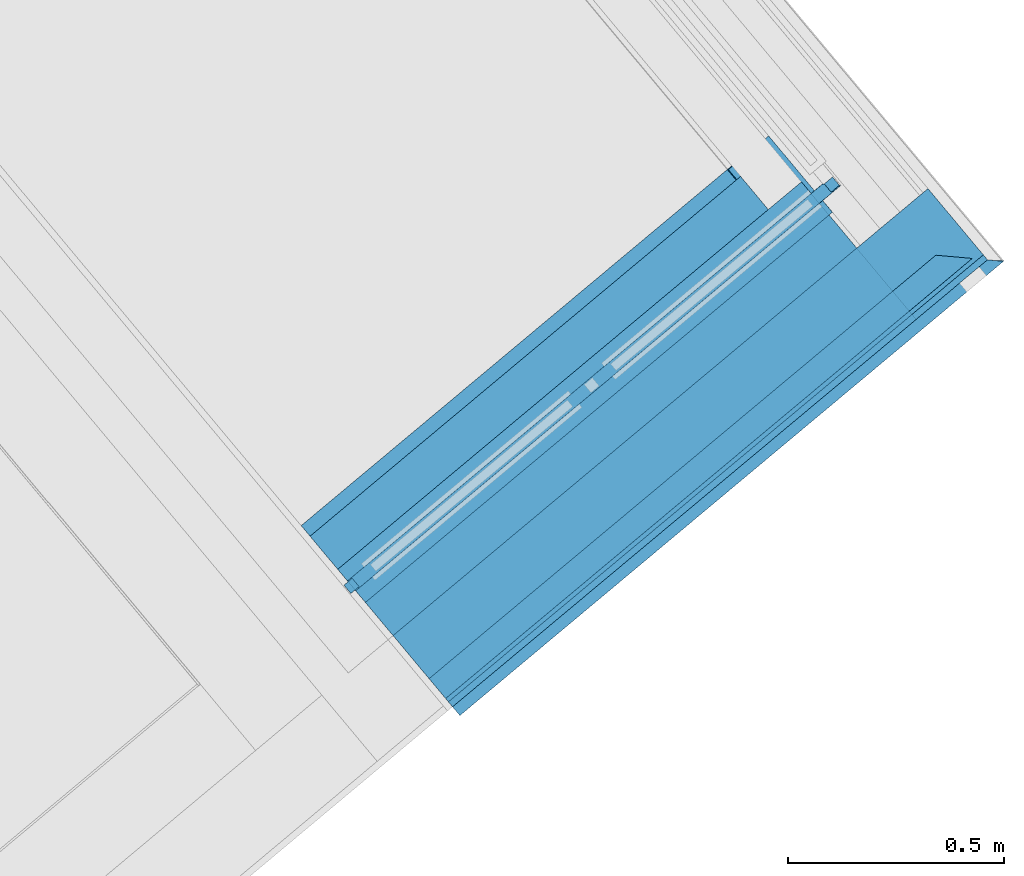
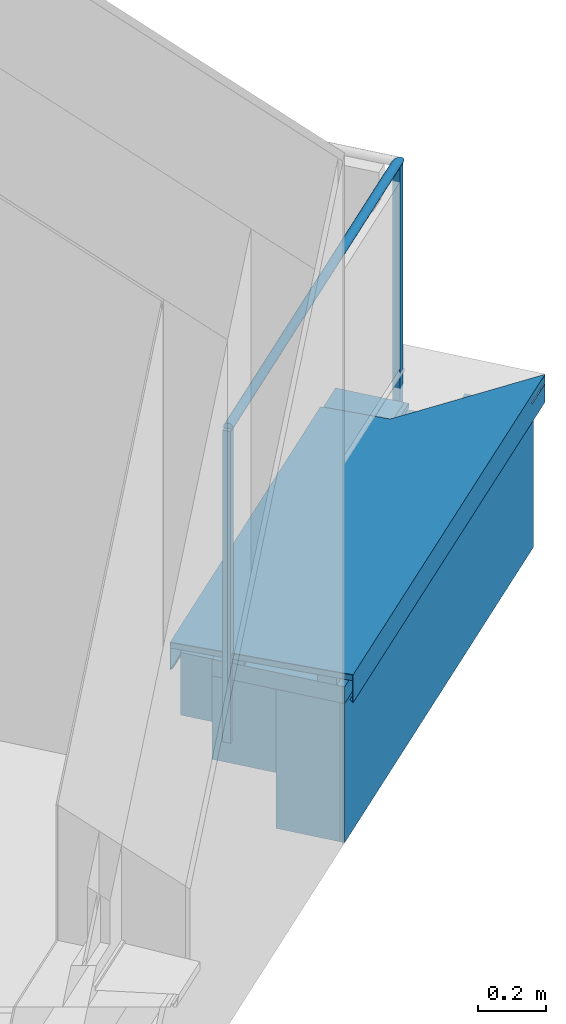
# One storey, part 28 of 50: 12 building element parts, 2 elements without a shape of their own.
"""IFC4 building model written with IfcOpenShell, lengths in metres."""

from ifc_helpers import new_model, entity, si_unit, converted_unit, derived_unit, direction, frame, origin_with_axes, place, context, subcontext, project, spatial, polygons, material, type_object, element, aggregate, save


model = new_model("IFC4")

# Units and contexts
model_context = context("Model", 3, precision=1e-05, world=origin_with_axes(), true_north=direction((0.0, 1.0)))
body_context = subcontext(model_context, "Body", "Model", "MODEL_VIEW")
ifc_project = project(units=[si_unit("LENGTHUNIT", "METRE"), si_unit("AREAUNIT", "SQUARE_METRE"), si_unit("VOLUMEUNIT", "CUBIC_METRE"), converted_unit("PLANEANGLEUNIT", "DEGREE", entity("IfcPlaneAngleMeasure", 0.0174532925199), si_unit("PLANEANGLEUNIT", "RADIAN"), dimensions=[0, 0, 0, 0, 0, 0, 0]), converted_unit("TIMEUNIT", "Year", entity("IfcTimeMeasure", 31556926.0), si_unit("TIMEUNIT", "SECOND"), dimensions=[0, 0, 1, 0, 0, 0, 0]), si_unit("MASSUNIT", "GRAM", prefix="KILO"), si_unit("THERMODYNAMICTEMPERATUREUNIT", "DEGREE_CELSIUS"), si_unit("LUMINOUSINTENSITYUNIT", "LUMEN"), si_unit("ENERGYUNIT", "JOULE", prefix="MEGA"), derived_unit("THERMALCONDUCTANCEUNIT", [(si_unit("POWERUNIT", "WATT"), 1), (si_unit("LENGTHUNIT", "METRE"), -1), (si_unit("THERMODYNAMICTEMPERATUREUNIT", "KELVIN"), -1)]), derived_unit("SPECIFICHEATCAPACITYUNIT", [(si_unit("ENERGYUNIT", "JOULE"), 1), (si_unit("MASSUNIT", "GRAM", prefix="KILO"), -1), (si_unit("THERMODYNAMICTEMPERATUREUNIT", "KELVIN"), -1)]), derived_unit("MASSDENSITYUNIT", [(si_unit("MASSUNIT", "GRAM", prefix="KILO"), 1), (si_unit("VOLUMEUNIT", "CUBIC_METRE"), -1)])], contexts=[model_context])

# Site, building, storey
site_placement = place(None, frame((-0.00153261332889, -0.00661245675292, 0.0), z_axis=(0.0, 0.0, 1.0), x_axis=(1.0, 0.0, 0.0)))
site = spatial("IfcSite", under=ifc_project, at=site_placement, Name="Site", CompositionType="ELEMENT")
building_placement = place(site_placement, origin_with_axes())
building = spatial("IfcBuilding", under=site, at=building_placement, Name="Building", CompositionType="ELEMENT")
storey_placement = place(building_placement, frame((0.0, 0.0, 2.74), z_axis=(0.0, 0.0, 1.0), x_axis=(1.0, 0.0, 0.0)))
storey = spatial("IfcBuildingStorey", under=building, at=storey_placement, Name="OG1", CompositionType="ELEMENT", Elevation=2.74)

# Wall, building element parts
wall_type = type_object("IfcWallType", Name="Balkon Dämmung runter 574 x 610", PredefinedType="NOTDEFINED")
wall_placement = place(storey_placement, frame((14.3343917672, 21.3414540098, -0.2), z_axis=(0.0, 0.0, 1.0), x_axis=(-0.76736545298, -0.64120999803, 0.0)))
wall = element("IfcWall", 1, at=wall_placement, inside=storey, type_object=wall_type, Name="Wand-004", PredefinedType="NOTDEFINED")
ifc_material_1 = material(Name="Zementputz")
building_element_part_1_placement = place(wall_placement, origin_with_axes())
building_element_part_1 = element("IfcBuildingElementPart", 2, at=building_element_part_1_placement, material=ifc_material_1, Name="Zementputz", PredefinedType="NOTDEFINED", context=body_context, shape_type="Tessellation", body=[
    polygons([(-0.21499890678, 0.214999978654, 0.0), (-0.21499890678, 0.214999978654, 0.500000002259), (1.40011965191, 0.214999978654, 0.500000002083), (1.40011965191, 0.214999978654, 0.0), (-0.214998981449, 0.19999996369, 0.0), (-0.214998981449, 0.19999996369, 0.500000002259), (1.40011965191, 0.19999996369, 0.499999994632), (1.40011965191, 0.19999996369, 0.0)], [[[1, 2, 3, 4]], [[2, 1, 5, 6]], [[2, 6, 7, 3]], [[4, 3, 7, 8]], [[5, 1, 4, 8]], [[6, 5, 8, 7]]], closed=True),
])
ifc_material_2 = material(Name="Vollholz")
building_element_part_2_placement = place(wall_placement, origin_with_axes())
building_element_part_2 = element("IfcBuildingElementPart", 3, at=building_element_part_2_placement, material=ifc_material_2, Name="Vollholz", PredefinedType="NOTDEFINED", context=body_context, shape_type="Tessellation", body=[
    polygons([(-0.130124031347, 0.189996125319, 0.584015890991), (-0.189983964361, 0.189984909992, 0.586106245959), (1.40011965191, 0.189984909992, 0.586106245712), (1.40011965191, 0.190124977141, 0.560000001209), (-0.130124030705, 0.190124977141, 0.560000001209), (-0.130124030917, 0.19008233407, 0.567947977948), (-0.130124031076, 0.190050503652, 0.573880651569), (-0.130124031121, 0.190041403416, 0.575576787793), (-0.130124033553, 0.190039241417, 0.575979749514), (-0.070141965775, 0.190039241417, 0.575979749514), (-0.0100531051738, 0.190039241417, 0.575979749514), (-0.0100317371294, 0.190018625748, 0.579822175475), (-0.0701419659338, 0.190007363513, 0.581921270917), (-0.130124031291, 0.190007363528, 0.581921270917), (-0.130124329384, 0.130124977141, 0.584015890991), (1.40011965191, 0.130124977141, 0.584015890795), (1.40011965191, 0.130124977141, 0.560000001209), (-0.130124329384, 0.130124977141, 0.560000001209), (-0.130124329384, 0.130124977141, 0.567947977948), (-0.130124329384, 0.130124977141, 0.573880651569), (-0.130124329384, 0.130124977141, 0.575576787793), (-0.130124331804, 0.130124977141, 0.575979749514), (-0.0701422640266, 0.130124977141, 0.575979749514), (-0.0100534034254, 0.130124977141, 0.575979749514), (-0.0100320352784, 0.130124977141, 0.579822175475), (-0.0701422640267, 0.130124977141, 0.581921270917), (-0.130124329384, 0.130124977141, 0.581921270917)], [[[1, 2, 3, 4, 5, 6, 7, 8, 9, 10, 11, 12, 13, 14]], [[15, 2, 1]], [[2, 15, 16, 3]], [[3, 16, 17, 4]], [[17, 18, 5, 4]], [[5, 18, 19, 6]], [[7, 6, 19, 20]], [[21, 8, 7, 20]], [[22, 9, 8, 21]], [[10, 9, 22, 23]], [[10, 23, 24, 11]], [[11, 24, 25, 12]], [[12, 25, 26, 13]], [[14, 13, 26, 27]], [[15, 1, 14, 27]], [[18, 17, 16, 15, 27, 26, 25, 24, 23, 22, 21, 20, 19]]], closed=True),
])
ifc_material_3 = material(Name="EPS 1")
building_element_part_3_placement = place(wall_placement, origin_with_axes())
building_element_part_3 = element("IfcBuildingElementPart", 4, at=building_element_part_3_placement, material=ifc_material_3, Name="EPS 1", PredefinedType="NOTDEFINED", context=body_context, shape_type="Tessellation", body=[
    polygons([(-0.214998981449, 0.19999996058, 0.0), (-0.214998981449, 0.19999996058, 0.500000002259), (1.40011965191, 0.19999996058, 0.499999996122), (1.40011965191, 0.19999996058, 0.0), (-0.214999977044, 2.90217450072e-09, 0.0), (-0.214999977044, 2.73518807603e-09, 0.200000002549), (-0.214999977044, 2.90217627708e-09, 0.500000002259), (1.40011965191, 2.90217450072e-09, 0.500000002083), (1.40011965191, 2.90217450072e-09, 0.0), (1.40011965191, 2.73518807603e-09, 0.200000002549)], [[[1, 2, 3, 4]], [[2, 1, 5, 6, 7]], [[2, 7, 8, 3]], [[9, 4, 3, 8, 10]], [[5, 1, 4, 9]], [[6, 5, 9, 10]], [[7, 6, 10, 8]]], closed=True),
])
ifc_material_4 = material(Name="Brettschichtholz")
building_element_part_4_placement = place(wall_placement, origin_with_axes())
building_element_part_4 = element("IfcBuildingElementPart", 5, at=building_element_part_4_placement, material=ifc_material_4, Name="Brettschichtholz", PredefinedType="NOTDEFINED", context=body_context, shape_type="Tessellation", body=[
    polygons([(1.40011965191, 0.214999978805, 0.500000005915), (1.40011965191, 0.214999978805, 0.560000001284), (1.40011965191, 0.190124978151, 0.560000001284), (1.40011965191, 0.130124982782, 0.560000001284), (1.40011965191, -0.100000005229, 0.560000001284), (1.40011965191, -0.160000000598, 0.560000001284), (1.40011965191, -0.200000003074, 0.560000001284), (1.40011965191, -0.199999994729, 0.500000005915), (1.07020205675e-06, 0.214999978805, 0.500000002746), (1.07020207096e-06, 0.214999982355, 0.506731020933), (1.07020207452e-06, 0.214999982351, 0.509050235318), (1.07020203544e-06, 0.214999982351, 0.509099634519), (1.07020207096e-06, 0.214999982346, 0.51136132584), (1.07020206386e-06, 0.214999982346, 0.511410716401), (1.07020207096e-06, 0.21499998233, 0.519224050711), (1.0702020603e-06, 0.21499998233, 0.519273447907), (1.07020207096e-06, 0.214999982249, 0.560000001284), (9.46374964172e-07, 0.190124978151, 0.560000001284), (6.47696584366e-07, 0.130124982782, 0.560000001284), (-4.97859470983e-07, -0.100000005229, 0.560000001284), (-7.96537847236e-07, -0.160000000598, 0.560000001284), (-9.95656794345e-07, -0.200000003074, 0.560000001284), (-9.95656751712e-07, -0.199999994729, 0.500000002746), (-9.95656773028e-07, -0.19999999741, 0.519273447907), (-9.95656765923e-07, -0.199999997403, 0.519224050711), (-9.95656765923e-07, -0.199999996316, 0.511410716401), (-9.95656758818e-07, -0.199999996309, 0.51136132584), (-9.95656787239e-07, -0.199999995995, 0.509099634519), (-9.95656758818e-07, -0.199999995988, 0.509050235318), (-9.95656758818e-07, -0.199999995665, 0.506731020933)], [[[1, 2, 3, 4, 5, 6, 7, 8]], [[2, 1, 9, 10, 11, 12, 13, 14, 15, 16, 17]], [[3, 2, 17, 18]], [[4, 3, 18, 19]], [[5, 4, 19, 20]], [[6, 5, 20, 21]], [[7, 6, 21, 22]], [[23, 8, 7, 22, 24, 25, 26, 27, 28, 29, 30]], [[1, 8, 23, 9]], [[9, 23, 30, 10]], [[11, 10, 30, 29]], [[12, 11, 29, 28]], [[13, 12, 28, 27]], [[14, 13, 27, 26]], [[15, 14, 26, 25]], [[25, 24, 16, 15]], [[21, 20, 19, 18, 17, 16, 24, 22]]], closed=True),
])
ifc_material_5 = material(Name="Stahlbeton")
building_element_part_5_placement = place(wall_placement, origin_with_axes())
building_element_part_5 = element("IfcBuildingElementPart", 6, at=building_element_part_5_placement, material=ifc_material_5, Name="Stahlbeton", PredefinedType="NOTDEFINED", context=body_context, shape_type="Tessellation", body=[
    polygons([(-1.05296038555e-09, 2.73518452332e-09, 0.498915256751), (-1.05295683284e-09, 2.73518452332e-09, 0.500000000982), (1.40011965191, 2.73518807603e-09, 0.499999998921), (1.40011965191, 2.73518807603e-09, 0.200000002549), (-1.05296038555e-09, 2.73518452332e-09, 0.2), (-1.05296038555e-09, 2.73518452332e-09, 0.334999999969), (-1.05296038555e-09, 2.73518452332e-09, 0.488695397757), (-1.05296038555e-09, 2.73518452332e-09, 0.491006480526), (-1.05296038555e-09, 2.73518452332e-09, 0.496604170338), (-1.05296038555e-09, 2.73518452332e-09, 0.498822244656), (-9.96647639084e-07, -0.199999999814, 0.500000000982), (-9.96647639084e-07, -0.199999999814, 0.498915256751), (1.40011965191, -0.199999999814, 0.500000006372), (1.40011965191, -0.199999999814, 0.334999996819), (1.40011965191, -0.199999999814, 0.200000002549), (-9.96647639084e-07, -0.199999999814, 0.2), (-9.96647639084e-07, -0.199999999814, 0.334999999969), (-9.96647639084e-07, -0.199999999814, 0.488695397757), (-9.96647639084e-07, -0.199999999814, 0.491006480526), (-9.96647639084e-07, -0.199999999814, 0.496604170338), (-9.96647639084e-07, -0.199999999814, 0.498822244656)], [[[1, 2, 3, 4, 5, 6, 7, 8, 9, 10]], [[11, 2, 1, 12]], [[2, 11, 13, 3]], [[4, 3, 13, 14, 15]], [[16, 5, 4, 15]], [[17, 6, 5, 16]], [[18, 7, 6, 17]], [[19, 8, 7, 18]], [[20, 9, 8, 19]], [[21, 10, 9, 20]], [[12, 1, 10, 21]], [[11, 12, 21, 20, 19, 18, 17, 14, 13]], [[17, 16, 15, 14]]], closed=True),
])
building_element_part_6_placement = place(wall_placement, origin_with_axes())
building_element_part_6 = element("IfcBuildingElementPart", 7, at=building_element_part_6_placement, material=ifc_material_2, Name="Vollholz", PredefinedType="NOTDEFINED", context=body_context, shape_type="Tessellation", body=[
    polygons([(-0.0100567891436, -0.1, 0.575576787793), (-0.0100545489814, -0.1, 0.575979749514), (1.40011965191, -0.1, 0.575979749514), (1.40011965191, -0.1, 0.560000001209), (-0.0101434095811, -0.1, 0.560000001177), (-0.0100992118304, -0.1, 0.567947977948), (-0.0100662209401, -0.1, 0.573880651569), (-0.010056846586, -0.11153931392, 0.575576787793), (-0.0100665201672, -0.160110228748, 0.573880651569), (1.40011965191, -0.160110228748, 0.573880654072), (1.40011965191, -0.16, 0.560000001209), (-0.0101437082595, -0.16, 0.560000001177), (-0.010099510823, -0.160063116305, 0.567947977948)], [[[1, 2, 3, 4, 5, 6, 7]], [[8, 2, 1]], [[2, 8, 9, 10, 3]], [[10, 11, 4, 3]], [[12, 5, 4, 11]], [[13, 6, 5, 12]], [[9, 7, 6, 13]], [[8, 1, 7, 9]], [[9, 13, 12, 11, 10]]], closed=True),
])
building_element_part_7_placement = place(wall_placement, origin_with_axes())
building_element_part_7 = element("IfcBuildingElementPart", 8, at=building_element_part_7_placement, material=ifc_material_3, Name="EPS 1", PredefinedType="NOTDEFINED", context=body_context, shape_type="Tessellation", body=[
    polygons([(0.0999985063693, -0.300000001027, 0.498915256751), (0.0999985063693, -0.300000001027, 0.499999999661), (0.0999990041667, -0.199999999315, 0.499999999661), (0.0999990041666, -0.199999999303, 0.498915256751), (1.40011965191, -0.3, 0.335), (1.40011965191, -0.3, 0.560000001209), (0.0999985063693, -0.300000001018, 0.560000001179), (0.0999985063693, -0.300000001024, 0.519273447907), (0.0999985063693, -0.300000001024, 0.519224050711), (0.0999985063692, -0.300000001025, 0.511410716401), (0.0999985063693, -0.300000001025, 0.51136132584), (0.0999985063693, -0.300000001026, 0.509099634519), (0.0999985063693, -0.300000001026, 0.509050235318), (0.0999985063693, -0.300000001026, 0.506731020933), (0.0999985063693, -0.300000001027, 0.498822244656), (0.0999985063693, -0.300000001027, 0.496604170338), (0.0999985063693, -0.300000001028, 0.491006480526), (0.0999985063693, -0.300000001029, 0.488695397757), (0.0999985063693, -0.3, 0.335), (0.0999990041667, -0.199999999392, 0.506731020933), (1.40011965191, -0.2, 0.560000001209), (1.40011965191, -0.199999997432, 0.335), (0.0999990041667, -0.199999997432, 0.335), (0.0999990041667, -0.199999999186, 0.488695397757), (0.0999990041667, -0.199999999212, 0.491006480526), (0.0999990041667, -0.199999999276, 0.496604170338), (0.0999990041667, -0.199999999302, 0.498822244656), (0.0999990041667, -0.199999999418, 0.509050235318), (0.0999990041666, -0.199999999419, 0.509099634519), (0.0999990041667, -0.199999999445, 0.51136132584), (0.0999990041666, -0.199999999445, 0.511410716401), (0.0999990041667, -0.199999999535, 0.519224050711), (0.0999990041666, -0.199999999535, 0.519273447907), (0.0999990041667, -0.2, 0.560000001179)], [[[1, 2, 3, 4]], [[5, 6, 7, 8, 9, 10, 11, 12, 13, 14, 2, 1, 15, 16, 17, 18, 19]], [[2, 14, 20, 3]], [[21, 22, 23, 24, 25, 26, 27, 4, 3, 20, 28, 29, 30, 31, 32, 33, 34]], [[15, 1, 4, 27]], [[5, 22, 21, 6]], [[6, 21, 34, 7]], [[34, 33, 8, 7]], [[33, 32, 9, 8]], [[32, 31, 10, 9]], [[31, 30, 11, 10]], [[30, 29, 12, 11]], [[29, 28, 13, 12]], [[14, 13, 28, 20]], [[16, 15, 27, 26]], [[17, 16, 26, 25]], [[18, 17, 25, 24]], [[19, 18, 24, 23]], [[22, 5, 19, 23]]], closed=True),
])
ifc_material_6 = material(Name="Holzwerkstoff")
building_element_part_8_placement = place(wall_placement, origin_with_axes())
building_element_part_8 = element("IfcBuildingElementPart", 9, at=building_element_part_8_placement, material=ifc_material_6, Name="Holzwerkstoff", PredefinedType="NOTDEFINED", context=body_context, shape_type="Tessellation", body=[
    polygons([(1.40011965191, -0.329999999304, 0.567947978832), (1.40011965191, -0.330698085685, 0.587937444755), (0.111969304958, -0.330698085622, 0.587937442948), (0.111905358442, -0.330634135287, 0.586106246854), (0.111832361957, -0.330561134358, 0.584015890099), (0.111759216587, -0.330487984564, 0.581921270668), (0.111685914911, -0.330414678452, 0.579822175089), (0.111551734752, -0.330280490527, 0.575979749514), (0.11153766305, -0.33026641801, 0.575576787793), (-0.0100579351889, -0.33026641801, 0.575576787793), (-0.0100673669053, -0.330207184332, 0.573880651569), (-0.0101003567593, -0.329999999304, 0.567947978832), (1.40011965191, 0.130124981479, 0.584015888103), (1.40011965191, 0.189984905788, 0.586106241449), (1.40011965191, 0.239999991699, 0.587852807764), (1.40011965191, 0.239276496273, 0.608570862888), (1.40011965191, -0.160110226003, 0.573880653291), (1.40011965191, -0.0999999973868, 0.575979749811), (-0.239275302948, 0.239276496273, 0.608570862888), (0.112246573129, -0.11222723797, 0.5958462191), (0.111972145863, 0.239997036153, 0.587937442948), (0.11196919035, 0.239999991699, 0.587852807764), (0.11190795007, 0.189985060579, 0.586106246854), (0.111834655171, 0.130124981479, 0.584015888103), (0.111761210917, 0.0701429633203, 0.581921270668), (0.111687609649, 0.0100327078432, 0.579822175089), (0.111552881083, -0.100000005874, 0.575979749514), (0.111538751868, -0.111539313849, 0.575576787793), (-0.0100568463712, -0.111539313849, 0.575576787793), (-0.0100665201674, -0.160110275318, 0.573880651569), (0.112248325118, 0.239720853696, 0.5958462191)], [[[1, 2, 3, 4, 5, 6, 7, 8, 9, 10, 11, 12]], [[13, 14, 15, 16, 2, 1, 17, 18]], [[2, 16, 19, 20, 3]], [[4, 3, 21, 22, 23]], [[5, 4, 23, 24]], [[6, 5, 24, 25]], [[26, 7, 6, 25]], [[27, 8, 7, 26]], [[27, 28, 9, 8]], [[9, 28, 29, 10]], [[11, 10, 29, 30]], [[30, 12, 11]], [[17, 1, 12, 30]], [[14, 13, 24, 23]], [[15, 14, 23, 22]], [[16, 15, 22, 21, 31, 19]], [[18, 17, 30, 29, 28, 27]], [[13, 18, 27, 26, 25, 24]], [[31, 20, 19]], [[3, 20, 31, 21]]], closed=True),
])
ifc_material_7 = material(Name="Stahl")
building_element_part_9_placement = place(wall_placement, origin_with_axes())
building_element_part_9 = element("IfcBuildingElementPart", 10, at=building_element_part_9_placement, material=ifc_material_7, Name="Stahl", PredefinedType="NOTDEFINED", context=body_context, shape_type="Tessellation", body=[
    polygons([(0.113599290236, -0.330698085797, 0.497561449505), (0.113599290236, -0.330698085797, 0.498822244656), (0.113599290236, -0.330698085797, 0.498915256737), (0.113599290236, -0.330698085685, 0.499999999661), (0.113599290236, -0.330698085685, 0.506731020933), (0.113599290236, -0.330698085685, 0.509050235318), (0.113599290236, -0.330698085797, 0.509099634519), (0.113599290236, -0.330698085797, 0.51136132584), (0.113599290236, -0.330698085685, 0.511410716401), (0.113599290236, -0.330698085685, 0.519224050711), (0.113599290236, -0.330698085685, 0.519273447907), (0.113599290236, -0.330698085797, 0.559999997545), (0.113599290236, -0.330698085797, 0.567947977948), (0.113599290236, -0.330698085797, 0.573880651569), (0.113599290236, -0.330698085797, 0.575576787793), (0.113599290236, -0.330698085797, 0.575979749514), (0.113599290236, -0.330698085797, 0.57982217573), (0.113599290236, -0.330698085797, 0.581921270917), (0.113599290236, -0.330698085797, 0.584015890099), (0.113599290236, -0.330698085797, 0.586106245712), (0.113599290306, -0.330698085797, 0.587937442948), (1.40011965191, -0.330698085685, 0.587937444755), (1.40011965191, -0.330698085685, 0.491006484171), (0.0999983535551, -0.330698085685, 0.491006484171), (0.0999983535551, -0.330698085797, 0.496604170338), (0.112642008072, -0.330698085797, 0.496604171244), (0.113599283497, -0.332051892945, 0.497561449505), (0.113599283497, -0.332051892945, 0.498822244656), (0.113599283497, -0.332051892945, 0.498915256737), (0.113599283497, -0.332051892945, 0.499999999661), (0.113599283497, -0.332051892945, 0.506731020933), (0.113599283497, -0.332051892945, 0.509050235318), (0.113599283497, -0.332051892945, 0.509099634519), (0.113599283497, -0.332051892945, 0.51136132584), (0.113599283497, -0.33205189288, 0.511410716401), (0.113599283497, -0.33205189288, 0.519224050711), (0.113599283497, -0.33205189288, 0.519273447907), (0.113599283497, -0.332051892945, 0.559999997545), (0.113599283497, -0.332051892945, 0.567947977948), (0.113599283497, -0.332051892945, 0.573880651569), (0.113599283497, -0.332051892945, 0.575576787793), (0.113599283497, -0.332051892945, 0.575979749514), (0.113599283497, -0.332051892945, 0.57982217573), (0.113599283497, -0.332051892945, 0.581921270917), (0.113599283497, -0.332051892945, 0.584015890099), (0.113599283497, -0.332051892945, 0.586106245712), (0.113599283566, -0.332051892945, 0.587937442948), (1.40011965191, 0.239276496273, 0.608570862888), (0.113600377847, -0.112227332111, 0.595846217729), (0.113600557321, -0.0761598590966, 0.597151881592), (-0.20170738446, 0.239276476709, 0.608570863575), (1.40011965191, -0.332051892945, 0.489652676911), (1.40011965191, -0.331094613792, 0.488695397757), (1.40011965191, -0.321878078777, 0.497911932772), (1.40011965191, -0.32288233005, 0.498822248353), (1.40011965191, 0.240152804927, 0.608602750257), (1.40011965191, 0.240146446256, 0.51136132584), (1.40011965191, 0.232283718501, 0.519224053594), (1.40011965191, 0.231373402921, 0.518219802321), (1.40011965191, 0.240542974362, 0.509050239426), (1.40011965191, 0.241500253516, 0.510007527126), (1.40011965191, 0.241500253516, 0.610006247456), (1.40011965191, -0.332051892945, 0.589243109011), (0.0999983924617, -0.32288233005, 0.498822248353), (0.0999983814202, -0.325100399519, 0.496604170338), (0.0999983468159, -0.332051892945, 0.491006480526), (0.0999983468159, -0.332051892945, 0.496604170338), (0.112642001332, -0.332051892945, 0.496604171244), (0.113599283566, -0.332051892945, 0.58924311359), (0.0999983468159, -0.332051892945, 0.489652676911), (0.113600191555, -0.149650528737, 0.595846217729), (0.113600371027, -0.113583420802, 0.597151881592), (-0.20170757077, 0.201849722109, 0.608570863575), (-0.202587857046, 0.240152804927, 0.608602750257), (0.0999983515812, -0.331094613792, 0.488695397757), (0.0999983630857, -0.328783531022, 0.491006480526), (0.0999983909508, -0.323185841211, 0.496604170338), (0.0999983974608, -0.321878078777, 0.497911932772), (-0.240092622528, 0.240152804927, 0.608602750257), (-0.241358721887, 0.240152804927, 0.608602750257), (-0.241358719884, 0.240152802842, 0.608570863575), (-0.241357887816, 0.24015197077, 0.595846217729), (-0.241357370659, 0.240151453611, 0.587937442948), (-0.241357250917, 0.240151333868, 0.586106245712), (-0.241357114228, 0.240151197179, 0.584015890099), (-0.241356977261, 0.24015106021, 0.581921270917), (-0.190006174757, 0.24015106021, 0.581921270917), (-0.130123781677, 0.24015106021, 0.581921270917), (-0.130123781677, 0.240150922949, 0.57982217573), (-0.130123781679, 0.240150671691, 0.575979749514), (-0.19003805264, 0.240150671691, 0.575979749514), (-0.241356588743, 0.240150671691, 0.575979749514), (-0.241356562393, 0.240150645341, 0.575576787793), (-0.241356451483, 0.24015053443, 0.573880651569), (-0.241356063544, 0.240150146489, 0.567947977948), (-0.241355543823, 0.240149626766, 0.559999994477), (-0.241352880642, 0.240146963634, 0.519273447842), (-0.241352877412, 0.240146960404, 0.519224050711), (-0.241352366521, 0.240146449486, 0.511410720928), (-0.242706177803, 0.240146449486, 0.511410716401), (-0.242706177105, 0.240146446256, 0.51136132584), (-0.23948720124, 0.240146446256, 0.51136132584), (-0.239437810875, 0.240097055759, 0.511410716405), (-0.232579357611, 0.233238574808, 0.518269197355), (-0.233444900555, 0.232283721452, 0.519224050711), (-0.232579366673, 0.231418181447, 0.518269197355), (-0.232628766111, 0.231373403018, 0.518219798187), (-0.239437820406, 0.238182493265, 0.511410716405), (-0.239487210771, 0.238231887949, 0.51136132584), (-0.241748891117, 0.240493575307, 0.509099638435), (-0.214998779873, 0.240493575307, 0.509099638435), (-0.214998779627, 0.240542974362, 0.509050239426), (-0.214998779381, 0.240592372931, 0.509099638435), (-0.241748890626, 0.240592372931, 0.509099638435), (-0.24084099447, 0.241500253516, 0.510007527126), (-0.239487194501, 0.241500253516, 0.51136132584), (-0.242706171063, 0.241500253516, 0.51136132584), (-0.242706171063, 0.241500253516, 0.511410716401), (-0.241352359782, 0.241500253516, 0.511410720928), (-0.241352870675, 0.241500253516, 0.519224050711), (-0.241352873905, 0.241500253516, 0.519273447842), (-0.2413555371, 0.241500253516, 0.559999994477), (-0.241356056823, 0.241500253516, 0.567947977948), (-0.241356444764, 0.241500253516, 0.573880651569), (-0.241356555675, 0.241500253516, 0.575576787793), (-0.241356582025, 0.241500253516, 0.575979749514), (-0.190038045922, 0.241500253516, 0.575979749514), (-0.13012377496, 0.241500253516, 0.575979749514), (-0.13012377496, 0.241500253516, 0.57982217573), (-0.13012377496, 0.241500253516, 0.581921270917), (-0.190006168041, 0.241500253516, 0.581921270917), (-0.241356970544, 0.241500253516, 0.581921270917), (-0.241357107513, 0.241500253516, 0.584015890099), (-0.241357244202, 0.241500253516, 0.586106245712), (-0.241357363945, 0.241500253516, 0.587937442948), (-0.241357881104, 0.241500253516, 0.595846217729), (-0.241358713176, 0.241500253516, 0.608570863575), (-0.24135871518, 0.241500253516, 0.608602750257), (-0.240092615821, 0.241500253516, 0.608602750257), (-0.202587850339, 0.241500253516, 0.608602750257), (-0.203951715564, 0.241500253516, 0.60865214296), (-0.241342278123, 0.241500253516, 0.610006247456), (-0.203951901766, 0.204095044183, 0.60865214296), (-0.202588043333, 0.20273064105, 0.608602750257)], [[[1, 2, 3, 4, 5, 6, 7, 8, 9, 10, 11, 12, 13, 14, 15, 16, 17, 18, 19, 20, 21, 22, 23, 24, 25, 26]], [[2, 1, 27, 28]], [[2, 28, 29, 3]], [[30, 4, 3, 29]], [[5, 4, 30, 31]], [[5, 31, 32, 6]], [[6, 32, 33, 7]], [[8, 7, 33, 34]], [[9, 8, 34, 35]], [[10, 9, 35, 36]], [[11, 10, 36, 37]], [[12, 11, 37, 38]], [[13, 12, 38, 39]], [[14, 13, 39, 40]], [[15, 14, 40, 41]], [[16, 15, 41, 42]], [[17, 16, 42, 43]], [[18, 17, 43, 44]], [[19, 18, 44, 45]], [[20, 19, 45, 46]], [[21, 20, 46, 47]], [[48, 22, 21, 49, 50, 51]], [[52, 53, 54, 55, 23, 22, 48, 56, 57, 58, 59, 60, 61, 62, 63]], [[23, 55, 64, 65, 24]], [[24, 66, 67, 25]], [[68, 26, 25, 67]], [[27, 1, 26, 68]], [[52, 63, 69, 47, 46, 45, 44, 43, 42, 41, 40, 39, 38, 37, 36, 35, 34, 33, 32, 31, 30, 29, 28, 27, 68, 67, 66, 70]], [[47, 69, 71, 49, 21]], [[49, 71, 72, 50]], [[72, 73, 51, 50]], [[56, 48, 51, 74]], [[53, 52, 70, 75]], [[54, 53, 75, 76, 77, 78]], [[55, 54, 78, 64]], [[57, 56, 74, 79, 80, 81, 82, 83, 84, 85, 86, 87, 88, 89, 90, 91, 92, 93, 94, 95, 96, 97, 98, 99, 100, 101, 102]], [[58, 57, 102, 103, 104, 105]], [[59, 58, 105, 106, 107]], [[60, 59, 107, 108, 109, 110, 111, 112]], [[61, 60, 112, 113, 114, 115]], [[62, 61, 115, 116, 117, 118, 119, 120, 121, 122, 123, 124, 125, 126, 127, 128, 129, 130, 131, 132, 133, 134, 135, 136, 137, 138, 139, 140, 141, 142]], [[63, 62, 142, 143, 144, 73, 72, 71, 69]], [[77, 65, 64, 78]], [[76, 24, 65, 77]], [[70, 66, 24, 76, 75]], [[144, 74, 51, 73]], [[74, 140, 139, 79]], [[79, 139, 138, 80]], [[81, 80, 138, 137]], [[82, 81, 137, 136]], [[83, 82, 136, 135]], [[84, 83, 135, 134]], [[85, 84, 134, 133]], [[86, 85, 133, 132]], [[131, 87, 86, 132]], [[130, 88, 87, 131]], [[129, 89, 88, 130]], [[128, 90, 89, 129]], [[90, 128, 127, 91]], [[91, 127, 126, 92]], [[93, 92, 126, 125]], [[94, 93, 125, 124]], [[95, 94, 124, 123]], [[96, 95, 123, 122]], [[97, 96, 122, 121]], [[98, 97, 121, 120]], [[99, 98, 120, 119]], [[119, 118, 100, 99]], [[118, 117, 101, 100]], [[116, 102, 101, 117]], [[103, 102, 109, 108]], [[104, 103, 108, 107, 106]], [[104, 106, 105]], [[102, 116, 115, 114, 110, 109]], [[113, 111, 110, 114]], [[112, 111, 113]], [[140, 74, 144, 143, 141]], [[141, 143, 142]]], closed=True),
])
aggregate(wall, [building_element_part_1, building_element_part_2, building_element_part_3, building_element_part_4, building_element_part_5, building_element_part_6, building_element_part_7, building_element_part_8, building_element_part_9])

# Railing, building element parts
railing_type = type_object("IfcRailingType", Name="Geländerart", PredefinedType="NOTDEFINED")
railing_placement = place(storey_placement, frame((13.1317464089, 20.5971564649, 0.38), z_axis=(0.0, 0.0, 1.0), x_axis=(1.0, 0.0, 0.0)))
railing = element("IfcRailing", 11, at=railing_placement, inside=storey, type_object=railing_type, Name="Geländer - 001", PredefinedType="NOTDEFINED")
ifc_material_8 = material(Name="Aluminium")
building_element_part_10_placement = place(railing_placement, origin_with_axes())
building_element_part_10 = element("IfcBuildingElementPart", 12, at=building_element_part_10_placement, material=ifc_material_8, Name="Aluminium", PredefinedType="NOTDEFINED", context=body_context, shape_type="Tessellation", body=[
    polygons([(0.04966769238, -0.0399452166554, -0.3), (0.0336374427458, -0.0207610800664, -0.3), (0.0336374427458, -0.0207610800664, 0.82), (0.04966769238, -0.0399452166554, 0.82), (0.030483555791, -0.0559754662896, -0.3), (0.0144533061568, -0.0367913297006, -0.3), (0.0144533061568, -0.0367913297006, 0.82), (0.030483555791, -0.0559754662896, 0.82)], [[[1, 2, 3, 4]], [[1, 5, 6, 2]], [[2, 6, 7, 3]], [[4, 3, 7, 8]], [[5, 1, 4, 8]], [[6, 5, 8, 7]]], closed=True),
])
building_element_part_11_placement = place(railing_placement, origin_with_axes())
building_element_part_11 = element("IfcBuildingElementPart", 13, at=building_element_part_11_placement, material=ifc_material_8, Name="Aluminium", PredefinedType="NOTDEFINED", context=body_context, shape_type="Tessellation", body=[
    polygons([(1.16243985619, 0.889886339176, -0.3), (1.14640960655, 0.909070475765, -0.3), (1.14640960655, 0.909070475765, 0.82), (1.16243985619, 0.889886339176, 0.82), (1.1432557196, 0.873856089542, -0.3), (1.12722546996, 0.893040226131, -0.3), (1.12722546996, 0.893040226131, 0.82), (1.1432557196, 0.873856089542, 0.82)], [[[1, 2, 3, 4]], [[1, 5, 6, 2]], [[2, 6, 7, 3]], [[4, 3, 7, 8]], [[5, 1, 4, 8]], [[6, 5, 8, 7]]], closed=True),
])
building_element_part_12_placement = place(railing_placement, origin_with_axes())
building_element_part_12 = element("IfcBuildingElementPart", 14, at=building_element_part_12_placement, material=ifc_material_8, Name="Aluminium", PredefinedType="NOTDEFINED", context=body_context, shape_type="Tessellation", body=[
    polygons([(0.0224423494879, -0.0268577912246, 0.825), (0.0225884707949, -0.0270326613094, 0.827604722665), (1.12402507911, 0.893326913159, 0.827604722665), (1.12370408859, 0.893355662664, 0.825), (0.0225884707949, -0.0270326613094, 0.822395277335), (0.023022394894, -0.0275519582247, 0.81986969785), (0.0237309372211, -0.0283999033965, 0.8175), (0.0246925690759, -0.02955073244, 0.815358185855), (0.0258780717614, -0.0309694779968, 0.813509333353), (0.0272514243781, -0.0326130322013, 0.812009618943), (0.0287708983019, -0.0344314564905, 0.810904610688), (0.0303903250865, -0.0363694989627, 0.810227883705), (0.0320604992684, -0.038368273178, 0.81), (0.0337306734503, -0.0403670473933, 0.810227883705), (0.0353501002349, -0.0423050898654, 0.810904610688), (0.0368695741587, -0.0441235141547, 0.812009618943), (0.0382429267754, -0.0457670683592, 0.813509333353), (0.0394284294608, -0.047185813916, 0.815358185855), (0.0403900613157, -0.0483366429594, 0.8175), (0.0410986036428, -0.0491845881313, 0.81986969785), (0.0415325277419, -0.0497038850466, 0.822395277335), (0.0416786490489, -0.0498787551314, 0.825), (0.0415325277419, -0.0497038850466, 0.827604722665), (0.0410986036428, -0.0491845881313, 0.83013030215), (0.0403900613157, -0.0483366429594, 0.8325), (0.0394284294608, -0.047185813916, 0.834641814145), (0.0382429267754, -0.0457670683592, 0.836490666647), (0.0368695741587, -0.0441235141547, 0.837990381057), (0.0353501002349, -0.0423050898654, 0.839095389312), (0.0337306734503, -0.0403670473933, 0.839772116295), (0.0320604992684, -0.038368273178, 0.84), (0.0303903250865, -0.0363694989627, 0.839772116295), (0.0287708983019, -0.0344314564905, 0.839095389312), (0.0272514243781, -0.0326130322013, 0.837990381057), (0.0258780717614, -0.0309694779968, 0.836490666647), (0.0246925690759, -0.02955073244, 0.834641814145), (0.0237309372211, -0.0283999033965, 0.8325), (0.023022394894, -0.0275519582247, 0.83013030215), (1.12497829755, 0.893241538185, 0.83013030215), (1.12653478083, 0.893102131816, 0.8325), (1.128647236, 0.892912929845, 0.834641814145), (1.13125147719, 0.892679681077, 0.836490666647), (1.13426837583, 0.892409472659, 0.837990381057), (1.137606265, 0.892110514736, 0.839095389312), (1.14116372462, 0.891791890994, 0.839772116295), (1.14483266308, 0.891463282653, 0.84), (1.14850160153, 0.891134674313, 0.839772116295), (1.15205906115, 0.890816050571, 0.839095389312), (1.15539695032, 0.890517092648, 0.837990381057), (1.15841384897, 0.89024688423, 0.836490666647), (1.16101809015, 0.890013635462, 0.834641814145), (1.16313054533, 0.889824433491, 0.8325), (1.16468702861, 0.889685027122, 0.83013030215), (1.16564024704, 0.889599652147, 0.827604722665), (1.16596123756, 0.889570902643, 0.825), (1.16564024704, 0.889599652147, 0.822395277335), (1.16468702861, 0.889685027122, 0.81986969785), (1.16313054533, 0.889824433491, 0.8175), (1.16101809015, 0.890013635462, 0.815358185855), (1.15841384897, 0.89024688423, 0.813509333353), (1.15539695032, 0.890517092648, 0.812009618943), (1.15205906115, 0.890816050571, 0.810904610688), (1.14850160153, 0.891134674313, 0.810227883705), (1.14483266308, 0.891463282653, 0.81), (1.14116372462, 0.891791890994, 0.810227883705), (1.137606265, 0.892110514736, 0.810904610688), (1.13426837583, 0.892409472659, 0.812009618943), (1.13125147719, 0.892679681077, 0.813509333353), (1.128647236, 0.892912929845, 0.815358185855), (1.12653478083, 0.893102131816, 0.8175), (1.12497829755, 0.893241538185, 0.81986969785), (1.12402507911, 0.893326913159, 0.822395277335)], [[[1, 2, 3, 4]], [[1, 5, 6, 7, 8, 9, 10, 11, 12, 13, 14, 15, 16, 17, 18, 19, 20, 21, 22, 23, 24, 25, 26, 27, 28, 29, 30, 31, 32, 33, 34, 35, 36, 37, 38, 2]], [[2, 38, 39, 3]], [[4, 3, 39, 40, 41, 42, 43, 44, 45, 46, 47, 48, 49, 50, 51, 52, 53, 54, 55, 56, 57, 58, 59, 60, 61, 62, 63, 64, 65, 66, 67, 68, 69, 70, 71, 72]], [[5, 1, 4, 72]], [[6, 5, 72, 71]], [[7, 6, 71, 70]], [[8, 7, 70, 69]], [[9, 8, 69, 68]], [[10, 9, 68, 67]], [[11, 10, 67, 66]], [[12, 11, 66, 65]], [[13, 12, 65, 64]], [[14, 13, 64, 63]], [[15, 14, 63, 62]], [[16, 15, 62, 61]], [[17, 16, 61, 60]], [[18, 17, 60, 59]], [[19, 18, 59, 58]], [[20, 19, 58, 57]], [[21, 20, 57, 56]], [[22, 21, 56, 55]], [[23, 22, 55, 54]], [[24, 23, 54, 53]], [[25, 24, 53, 52]], [[26, 25, 52, 51]], [[27, 26, 51, 50]], [[28, 27, 50, 49]], [[29, 28, 49, 48]], [[30, 29, 48, 47]], [[31, 30, 47, 46]], [[32, 31, 46, 45]], [[33, 32, 45, 44]], [[34, 33, 44, 43]], [[35, 34, 43, 42]], [[36, 35, 42, 41]], [[37, 36, 41, 40]], [[38, 37, 40, 39]]], closed=True),
])
aggregate(railing, [building_element_part_10, building_element_part_11, building_element_part_12])

save(model, "model.ifc")
